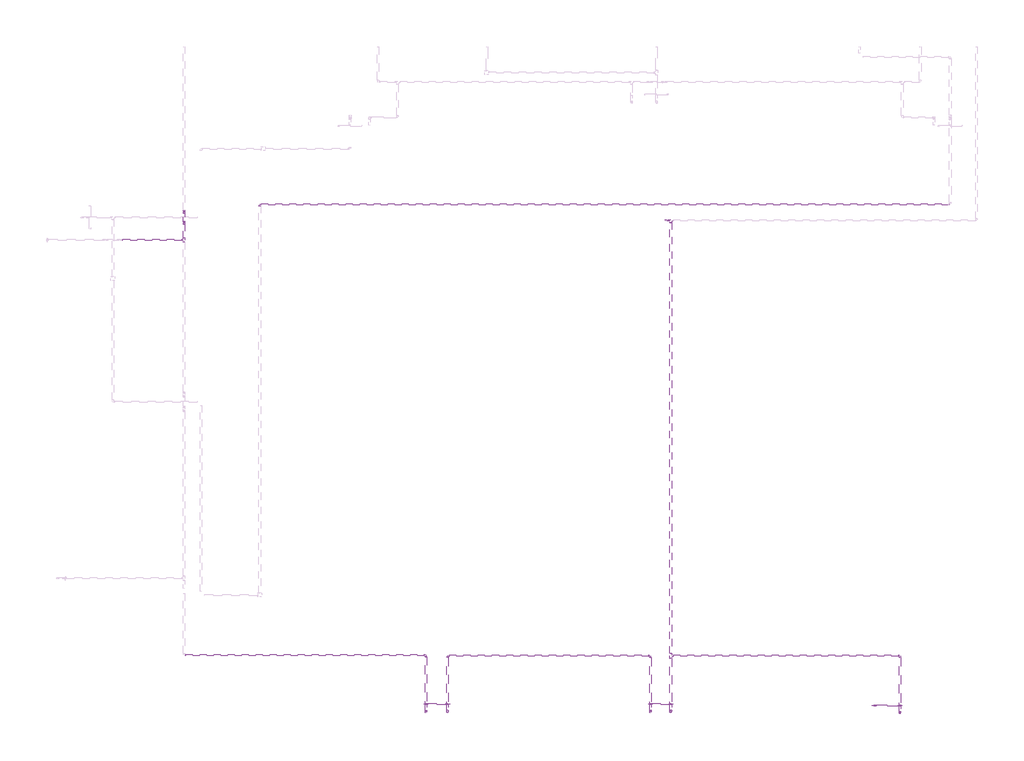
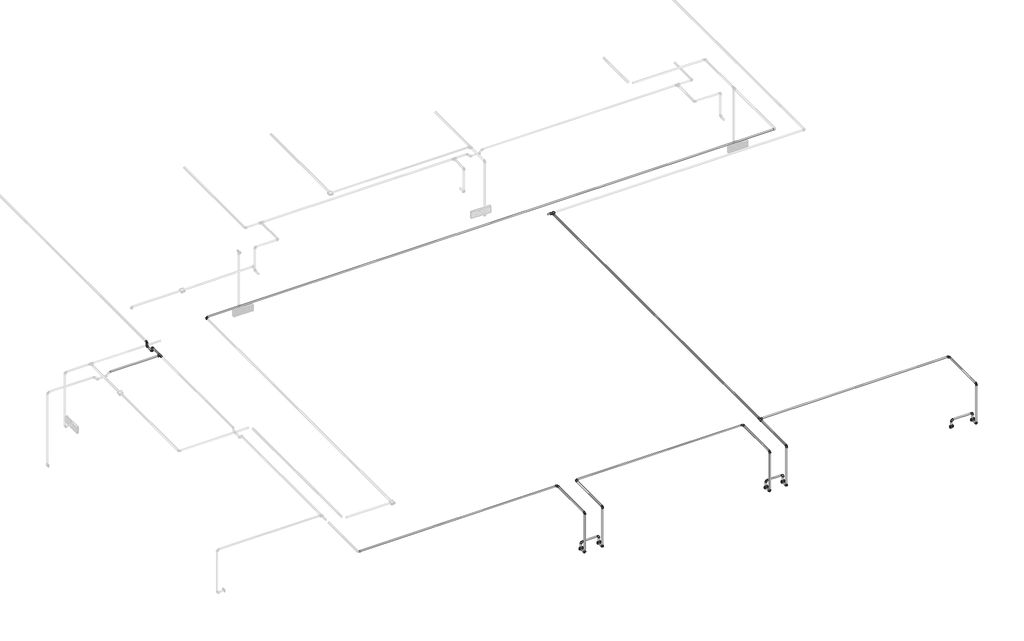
# One storey, part 9 of 40: 35 cable carrier segments, 28 cable carrier fittings, 6 electric appliances.
"""IFC4 building model written with IfcOpenShell, lengths in millimetres."""

from ifc_helpers import new_model, si_unit, point, frame, frame_2d, origin, place, context, project, spatial, circle_curve, trimmed, segment, composite_curve, outline, extrude, transform, mapped, element, save
from components import cable_carrier_fitting_69f1a801, cable_carrier_fitting_8fd13dfc, electric_appliance_5961a143

model = new_model("IFC4")

# Units and contexts
model_context = context("Model", 3, world=origin())
ifc_project = project(units=[si_unit("LENGTHUNIT", "METRE", prefix="MILLI")], contexts=[model_context])

# Site, building, storey
site = spatial("IfcSite", under=ifc_project)
building = spatial("IfcBuilding", under=site)
storey = spatial("IfcBuildingStorey", under=building, Name="1 этаж", Elevation=0.0)

# Cable carrier fittings
placement = place(None, origin())
cable_carrier_fitting_shape = cable_carrier_fitting_69f1a801(model_context)
element("IfcCableCarrierFitting", 1, ObjectType="ADSK_Поворот_Минимальный размер : Неспецифицируемый", at=placement, inside=storey, context=model_context, shape_type="MappedRepresentation", body=[
    mapped(cable_carrier_fitting_shape, transform((7617.6759979, -8505.3629895, 3190.0), x_axis=(-1.0, 0.0, 0.0), y_axis=(0.0, -1.0, 0.0), z_axis=(0.0, 0.0, 1.0))),
])
element("IfcCableCarrierFitting", 2, ObjectType="ADSK_Поворот_Минимальный размер : Неспецифицируемый", at=placement, inside=storey, context=model_context, shape_type="MappedRepresentation", body=[
    mapped(cable_carrier_fitting_shape, transform((12587.6759979, -14869.3629895, 2650.0), x_axis=(0.0, 0.0, 1.0), y_axis=(1.0, 0.0, 0.0), z_axis=(0.0, 1.0, 0.0))),
])
element("IfcCableCarrierFitting", 3, ObjectType="ADSK_Поворот_Минимальный размер : Неспецифицируемый", at=placement, inside=storey, context=model_context, shape_type="MappedRepresentation", body=[
    mapped(cable_carrier_fitting_shape, transform((12847.6759979, -14869.3629895, 2650.0), x_axis=(0.0, 0.0, 1.0), y_axis=(-1.0, 0.0, 0.0), z_axis=(0.0, -1.0, 0.0))),
])
element("IfcCableCarrierFitting", 4, ObjectType="ADSK_Поворот_Минимальный размер : Неспецифицируемый", at=placement, inside=storey, context=model_context, shape_type="MappedRepresentation", body=[
    mapped(cable_carrier_fitting_shape, transform((9731.6759979, -14869.3629895, 2650.0), x_axis=(0.0, 0.0, 1.0), y_axis=(1.0, 0.0, 0.0), z_axis=(0.0, 1.0, 0.0))),
])
element("IfcCableCarrierFitting", 5, ObjectType="ADSK_Поворот_Минимальный размер : Неспецифицируемый", at=placement, inside=storey, context=model_context, shape_type="MappedRepresentation", body=[
    mapped(cable_carrier_fitting_shape, transform((10007.6759979, -14869.3629895, 2650.0), x_axis=(0.0, 0.0, 1.0), y_axis=(-1.0, 0.0, 0.0), z_axis=(0.0, -1.0, 0.0))),
])
element("IfcCableCarrierFitting", 6, ObjectType="ADSK_Поворот_Минимальный размер : Неспецифицируемый", at=placement, inside=storey, context=model_context, shape_type="MappedRepresentation", body=[
    mapped(cable_carrier_fitting_shape, transform((12847.6759979, -14969.5627951, 2535.0911237), x_axis=(0.0, -1.0, 0.0), y_axis=(0.0, 0.0, 1.0), z_axis=(-1.0, 0.0, 0.0))),
])
element("IfcCableCarrierFitting", 7, ObjectType="ADSK_Поворот_Минимальный размер : Неспецифицируемый", at=placement, inside=storey, context=model_context, shape_type="MappedRepresentation", body=[
    mapped(cable_carrier_fitting_shape, transform((12587.6759979, -14969.5627951, 2535.0527319), x_axis=(0.0, -1.0, 0.0), y_axis=(0.0, 0.0, 1.0), z_axis=(-1.0, 0.0, 0.0))),
])
element("IfcCableCarrierFitting", 8, ObjectType="ADSK_Поворот_Минимальный размер : Неспецифицируемый", at=placement, inside=storey, context=model_context, shape_type="MappedRepresentation", body=[
    mapped(cable_carrier_fitting_shape, transform((12587.6759979, -14969.5627951, 3187.0), x_axis=(0.0, 0.0, 1.0), y_axis=(0.0, 1.0, 0.0), z_axis=(-1.0, 0.0, 0.0))),
])
element("IfcCableCarrierFitting", 9, ObjectType="ADSK_Поворот_Минимальный размер : Неспецифицируемый", at=placement, inside=storey, context=model_context, shape_type="MappedRepresentation", body=[
    mapped(cable_carrier_fitting_shape, transform((12587.6759979, -14252.3629895, 3187.0), x_axis=(0.0, 1.0, 0.0), y_axis=(-1.0, 0.0, 0.0), z_axis=(0.0, 0.0, 1.0))),
])
element("IfcCableCarrierFitting", 10, ObjectType="ADSK_Поворот_Минимальный размер : Неспецифицируемый", at=placement, inside=storey, context=model_context, shape_type="MappedRepresentation", body=[
    mapped(cable_carrier_fitting_shape, transform((10007.6759979, -14969.5627951, 2535.0911237), x_axis=(0.0, -1.0, 0.0), y_axis=(0.0, 0.0, 1.0), z_axis=(-1.0, 0.0, 0.0))),
])
element("IfcCableCarrierFitting", 11, ObjectType="ADSK_Поворот_Минимальный размер : Неспецифицируемый", at=placement, inside=storey, context=model_context, shape_type="MappedRepresentation", body=[
    mapped(cable_carrier_fitting_shape, transform((10007.6759979, -14969.5627951, 3187.0), x_axis=(0.0, 0.0, 1.0), y_axis=(0.0, 1.0, 0.0), z_axis=(-1.0, 0.0, 0.0))),
])
element("IfcCableCarrierFitting", 12, ObjectType="ADSK_Поворот_Минимальный размер : Неспецифицируемый", at=placement, inside=storey, context=model_context, shape_type="MappedRepresentation", body=[
    mapped(cable_carrier_fitting_shape, transform((10007.6759979, -14252.3629895, 3187.0), x_axis=(-1.0, 0.0, 0.0), y_axis=(0.0, -1.0, 0.0), z_axis=(0.0, 0.0, 1.0))),
])
element("IfcCableCarrierFitting", 13, ObjectType="ADSK_Поворот_Минимальный размер : Неспецифицируемый", at=placement, inside=storey, context=model_context, shape_type="MappedRepresentation", body=[
    mapped(cable_carrier_fitting_shape, transform((9731.6759979, -14969.5627951, 2535.0527319), x_axis=(0.0, -1.0, 0.0), y_axis=(0.0, 0.0, 1.0), z_axis=(-1.0, 0.0, 0.0))),
])
element("IfcCableCarrierFitting", 14, ObjectType="ADSK_Поворот_Минимальный размер : Неспецифицируемый", at=placement, inside=storey, context=model_context, shape_type="MappedRepresentation", body=[
    mapped(cable_carrier_fitting_shape, transform((9731.6759979, -14969.5627951, 3187.0), x_axis=(0.0, 0.0, 1.0), y_axis=(0.0, 1.0, 0.0), z_axis=(-1.0, 0.0, 0.0))),
])
element("IfcCableCarrierFitting", 15, ObjectType="ADSK_Поворот_Минимальный размер : Неспецифицируемый", at=placement, inside=storey, context=model_context, shape_type="MappedRepresentation", body=[
    mapped(cable_carrier_fitting_shape, transform((9731.6759979, -14242.3629895, 3187.0), x_axis=(0.0, 1.0, 0.0), y_axis=(-1.0, 0.0, 0.0), z_axis=(0.0, 0.0, 1.0))),
])
element("IfcCableCarrierFitting", 16, ObjectType="ADSK_Поворот_Минимальный размер : Неспецифицируемый", at=placement, inside=storey, context=model_context, shape_type="MappedRepresentation", body=[
    mapped(cable_carrier_fitting_shape, transform((6652.6759979, -8738.1129893, 3120.0), x_axis=(0.0, 0.0, -1.0), y_axis=(0.0, 1.0, 0.0), z_axis=(1.0, 0.0, 0.0))),
])
element("IfcCableCarrierFitting", 17, ObjectType="ADSK_Поворот_Минимальный размер : Неспецифицируемый", at=placement, inside=storey, context=model_context, shape_type="MappedRepresentation", body=[
    mapped(cable_carrier_fitting_shape, transform((6652.6759979, -8598.1129893, 3120.0), x_axis=(0.0, 1.0, 0.0), y_axis=(0.0, 0.0, 1.0), z_axis=(1.0, 0.0, 0.0))),
])
element("IfcCableCarrierFitting", 18, ObjectType="ADSK_Поворот_Минимальный размер : Неспецифицируемый", at=placement, inside=storey, context=model_context, shape_type="MappedRepresentation", body=[
    mapped(cable_carrier_fitting_shape, transform((6652.6759979, -8598.1129893, 3187.0), x_axis=(0.0, 0.0, 1.0), y_axis=(0.0, 1.0, 0.0), z_axis=(-1.0, 0.0, 0.0))),
])
element("IfcCableCarrierFitting", 19, ObjectType="ADSK_Поворот_Минимальный размер : Неспецифицируемый", at=placement, inside=storey, context=model_context, shape_type="MappedRepresentation", body=[
    mapped(cable_carrier_fitting_shape, transform((6652.6759979, -8738.1129893, 3187.0), x_axis=(0.0, 0.0, 1.0), y_axis=(0.0, -1.0, 0.0), z_axis=(1.0, 0.0, 0.0))),
])
element("IfcCableCarrierFitting", 20, ObjectType="ADSK_Поворот_Минимальный размер : Неспецифицируемый", at=placement, inside=storey, context=model_context, shape_type="MappedRepresentation", body=[
    mapped(cable_carrier_fitting_shape, transform((15766.911395, -14984.5627951, 2535.0911237), x_axis=(0.0, -1.0, 0.0), y_axis=(0.0, 0.0, 1.0), z_axis=(-1.0, 0.0, 0.0))),
])
element("IfcCableCarrierFitting", 21, ObjectType="ADSK_Поворот_Минимальный размер : Неспецифицируемый", at=placement, inside=storey, context=model_context, shape_type="MappedRepresentation", body=[
    mapped(cable_carrier_fitting_shape, transform((15766.911395, -14984.5627951, 3187.0), x_axis=(0.0, 0.0, 1.0), y_axis=(0.0, 1.0, 0.0), z_axis=(-1.0, 0.0, 0.0))),
])
element("IfcCableCarrierFitting", 22, ObjectType="ADSK_Поворот_Минимальный размер : Неспецифицируемый", at=placement, inside=storey, context=model_context, shape_type="MappedRepresentation", body=[
    mapped(cable_carrier_fitting_shape, transform((12847.6759979, -14969.5627951, 3187.0), x_axis=(0.0, 0.0, 1.0), y_axis=(0.0, 1.0, 0.0), z_axis=(-1.0, 0.0, 0.0))),
])
element("IfcCableCarrierFitting", 23, ObjectType="ADSK_Поворот_Минимальный размер : Неспецифицируемый", at=placement, inside=storey, context=model_context, shape_type="MappedRepresentation", body=[
    mapped(cable_carrier_fitting_shape, transform((15766.911395, -14252.3629895, 3187.0), x_axis=(0.0, 1.0, 0.0), y_axis=(-1.0, 0.0, 0.0), z_axis=(0.0, 0.0, 1.0))),
])
element("IfcCableCarrierFitting", 24, ObjectType="ADSK_Поворот_Минимальный размер : Неспецифицируемый", at=placement, inside=storey, context=model_context, shape_type="MappedRepresentation", body=[
    mapped(cable_carrier_fitting_shape, transform((15438.7228499, -14884.3629895, 2650.0), x_axis=(0.0, 0.0, 1.0), y_axis=(1.0, 0.0, 0.0), z_axis=(0.0, 1.0, 0.0))),
])
element("IfcCableCarrierFitting", 25, ObjectType="ADSK_Поворот_Минимальный размер : Неспецифицируемый", at=placement, inside=storey, context=model_context, shape_type="MappedRepresentation", body=[
    mapped(cable_carrier_fitting_shape, transform((15766.8950762, -14884.3629895, 2650.0), x_axis=(0.0, 0.0, 1.0), y_axis=(-1.0, 0.0, 0.0), z_axis=(0.0, -1.0, 0.0))),
])
cable_carrier_fitting_2_shape = cable_carrier_fitting_8fd13dfc(model_context)
element("IfcCableCarrierFitting", 26, ObjectType="ADSK_Тройник : ПВХ", at=placement, inside=storey, context=model_context, shape_type="MappedRepresentation", body=[
    mapped(cable_carrier_fitting_2_shape, transform((12847.6759979, -8707.8629895, 3187.0), x_axis=(1.0, 0.0, 0.0), y_axis=(0.0, 1.0, 0.0), z_axis=(0.0, 0.0, 1.0))),
])
element("IfcCableCarrierFitting", 27, ObjectType="ADSK_Тройник : ПВХ", at=placement, inside=storey, context=model_context, shape_type="MappedRepresentation", body=[
    mapped(cable_carrier_fitting_2_shape, transform((6652.6759979, -8957.6730001, 3187.0), x_axis=(0.0, -1.0, 0.0), y_axis=(1.0, 0.0, 0.0), z_axis=(0.0, 0.0, 1.0))),
])
element("IfcCableCarrierFitting", 28, ObjectType="ADSK_Тройник : ПВХ", at=placement, inside=storey, context=model_context, shape_type="MappedRepresentation", body=[
    mapped(cable_carrier_fitting_2_shape, transform((12847.6759979, -14252.3629895, 3187.0), x_axis=(0.0, 1.0, 0.0), y_axis=(-1.0, 0.0, 0.0), z_axis=(0.0, 0.0, 1.0))),
])

# Cable carrier segments
element("IfcCableCarrierSegment", 29, ObjectType="Гофрированная труба", at=placement, inside=storey, context=model_context, shape_type="SweptSolid", body=[
    extrude(outline(composite_curve([segment(trimmed(circle_curve(frame_2d((-8505.3629895, 3190.0)), 10.0), [point((-8515.3629895, 3190.0))], [point((-8505.3629895, 3200.0))], False, "CARTESIAN"), True, "CONTINUOUS"), segment(trimmed(circle_curve(frame_2d((-8505.3629895, 3190.0)), 10.0), [point((-8505.3629895, 3200.0))], [point((-8495.3629895, 3190.0))], False, "CARTESIAN"), True, "CONTINUOUS"), segment(trimmed(circle_curve(frame_2d((-8505.3629895, 3190.0)), 10.0), [point((-8495.3629895, 3190.0))], [point((-8505.3629895, 3180.0))], False, "CARTESIAN"), True, "CONTINUOUS"), segment(trimmed(circle_curve(frame_2d((-8505.3629895, 3190.0)), 10.0), [point((-8505.3629895, 3180.0))], [point((-8515.3629895, 3190.0))], False, "CARTESIAN"), True, "CONTINUOUS")], self_intersect=False)), frame((7638.6759979, 0.0, 0.0), z_axis=(1.0, 0.0, 0.0), x_axis=(0.0, 1.0, 0.0)), (0.0, 0.0, 1.0), 8744.25),
])
element("IfcCableCarrierSegment", 30, ObjectType="Гофрированная труба", at=placement, inside=storey, context=model_context, shape_type="SweptSolid", body=[
    extrude(outline(composite_curve([segment(trimmed(circle_curve(frame_2d((-8707.8629895, 3187.0)), 10.0), [point((-8697.8629895, 3187.0))], [point((-8707.8629895, 3177.0))], False, "CARTESIAN"), True, "CONTINUOUS"), segment(trimmed(circle_curve(frame_2d((-8707.8629895, 3187.0)), 10.0), [point((-8707.8629895, 3177.0))], [point((-8717.8629895, 3187.0))], False, "CARTESIAN"), True, "CONTINUOUS"), segment(trimmed(circle_curve(frame_2d((-8707.8629895, 3187.0)), 10.0), [point((-8717.8629895, 3187.0))], [point((-8707.8629895, 3197.0))], False, "CARTESIAN"), True, "CONTINUOUS"), segment(trimmed(circle_curve(frame_2d((-8707.8629895, 3187.0)), 10.0), [point((-8707.8629895, 3197.0))], [point((-8697.8629895, 3187.0))], False, "CARTESIAN"), True, "CONTINUOUS")], self_intersect=False)), frame((12780.1759979, 0.0, 0.0), z_axis=(1.0, 0.0, 0.0), x_axis=(0.0, 1.0, 0.0)), (0.0, 0.0, 1.0), 37.5),
])
element("IfcCableCarrierSegment", 31, ObjectType="Гофрированная труба", at=placement, inside=storey, context=model_context, shape_type="SweptSolid", body=[
    extrude(outline(composite_curve([segment(trimmed(circle_curve(frame_2d((-14869.3629895, 2650.0)), 10.0), [point((-14879.3629895, 2650.0))], [point((-14869.3629895, 2660.0))], False, "CARTESIAN"), True, "CONTINUOUS"), segment(trimmed(circle_curve(frame_2d((-14869.3629895, 2650.0)), 10.0), [point((-14869.3629895, 2660.0))], [point((-14859.3629895, 2650.0))], False, "CARTESIAN"), True, "CONTINUOUS"), segment(trimmed(circle_curve(frame_2d((-14869.3629895, 2650.0)), 10.0), [point((-14859.3629895, 2650.0))], [point((-14869.3629895, 2640.0))], False, "CARTESIAN"), True, "CONTINUOUS"), segment(trimmed(circle_curve(frame_2d((-14869.3629895, 2650.0)), 10.0), [point((-14869.3629895, 2640.0))], [point((-14879.3629895, 2650.0))], False, "CARTESIAN"), True, "CONTINUOUS")], self_intersect=False)), frame((12608.6759979, 0.0, 0.0), z_axis=(1.0, 0.0, 0.0), x_axis=(0.0, 1.0, 0.0)), (0.0, 0.0, 1.0), 218.0),
])
element("IfcCableCarrierSegment", 32, ObjectType="Гофрированная труба", at=placement, inside=storey, context=model_context, shape_type="SweptSolid", body=[
    extrude(outline(composite_curve([segment(trimmed(circle_curve(frame_2d((12847.6759979, -14869.3629895)), 10.0), [point((12837.6759979, -14869.3629895))], [point((12847.6759979, -14859.3629895))], False, "CARTESIAN"), True, "CONTINUOUS"), segment(trimmed(circle_curve(frame_2d((12847.6759979, -14869.3629895)), 10.0), [point((12847.6759979, -14859.3629895))], [point((12857.6759979, -14869.3629895))], False, "CARTESIAN"), True, "CONTINUOUS"), segment(trimmed(circle_curve(frame_2d((12847.6759979, -14869.3629895)), 10.0), [point((12857.6759979, -14869.3629895))], [point((12847.6759979, -14879.3629895))], False, "CARTESIAN"), True, "CONTINUOUS"), segment(trimmed(circle_curve(frame_2d((12847.6759979, -14869.3629895)), 10.0), [point((12847.6759979, -14879.3629895))], [point((12837.6759979, -14869.3629895))], False, "CARTESIAN"), True, "CONTINUOUS")], self_intersect=False)), frame((0.0, 0.0, 2564.1207114), z_axis=(0.0, 0.0, 1.0), x_axis=(1.0, 0.0, 0.0)), (0.0, 0.0, 1.0), 64.8792886),
])
element("IfcCableCarrierSegment", 33, ObjectType="Гофрированная труба", at=placement, inside=storey, context=model_context, shape_type="SweptSolid", body=[
    extrude(outline(composite_curve([segment(trimmed(circle_curve(frame_2d((12587.6759979, -14869.3629895)), 10.0), [point((12577.6759979, -14869.3629895))], [point((12587.6759979, -14859.3629895))], False, "CARTESIAN"), True, "CONTINUOUS"), segment(trimmed(circle_curve(frame_2d((12587.6759979, -14869.3629895)), 10.0), [point((12587.6759979, -14859.3629895))], [point((12597.6759979, -14869.3629895))], False, "CARTESIAN"), True, "CONTINUOUS"), segment(trimmed(circle_curve(frame_2d((12587.6759979, -14869.3629895)), 10.0), [point((12597.6759979, -14869.3629895))], [point((12587.6759979, -14879.3629895))], False, "CARTESIAN"), True, "CONTINUOUS"), segment(trimmed(circle_curve(frame_2d((12587.6759979, -14869.3629895)), 10.0), [point((12587.6759979, -14879.3629895))], [point((12577.6759979, -14869.3629895))], False, "CARTESIAN"), True, "CONTINUOUS")], self_intersect=False)), frame((0.0, 0.0, 2564.0823197), z_axis=(0.0, 0.0, 1.0), x_axis=(1.0, 0.0, 0.0)), (0.0, 0.0, 1.0), 64.9176803),
])
element("IfcCableCarrierSegment", 34, ObjectType="Гофрированная труба", at=placement, inside=storey, context=model_context, shape_type="SweptSolid", body=[
    extrude(outline(composite_curve([segment(trimmed(circle_curve(frame_2d((-14869.3629895, 2650.0)), 10.0), [point((-14879.3629895, 2650.0))], [point((-14869.3629895, 2660.0))], False, "CARTESIAN"), True, "CONTINUOUS"), segment(trimmed(circle_curve(frame_2d((-14869.3629895, 2650.0)), 10.0), [point((-14869.3629895, 2660.0))], [point((-14859.3629895, 2650.0))], False, "CARTESIAN"), True, "CONTINUOUS"), segment(trimmed(circle_curve(frame_2d((-14869.3629895, 2650.0)), 10.0), [point((-14859.3629895, 2650.0))], [point((-14869.3629895, 2640.0))], False, "CARTESIAN"), True, "CONTINUOUS"), segment(trimmed(circle_curve(frame_2d((-14869.3629895, 2650.0)), 10.0), [point((-14869.3629895, 2640.0))], [point((-14879.3629895, 2650.0))], False, "CARTESIAN"), True, "CONTINUOUS")], self_intersect=False)), frame((9752.6759979, 0.0, 0.0), z_axis=(1.0, 0.0, 0.0), x_axis=(0.0, 1.0, 0.0)), (0.0, 0.0, 1.0), 234.0),
])
element("IfcCableCarrierSegment", 35, ObjectType="Гофрированная труба", at=placement, inside=storey, context=model_context, shape_type="SweptSolid", body=[
    extrude(outline(composite_curve([segment(trimmed(circle_curve(frame_2d((10007.6759979, -14869.3629895)), 10.0), [point((9997.6759979, -14869.3629895))], [point((10007.6759979, -14859.3629895))], False, "CARTESIAN"), True, "CONTINUOUS"), segment(trimmed(circle_curve(frame_2d((10007.6759979, -14869.3629895)), 10.0), [point((10007.6759979, -14859.3629895))], [point((10017.6759979, -14869.3629895))], False, "CARTESIAN"), True, "CONTINUOUS"), segment(trimmed(circle_curve(frame_2d((10007.6759979, -14869.3629895)), 10.0), [point((10017.6759979, -14869.3629895))], [point((10007.6759979, -14879.3629895))], False, "CARTESIAN"), True, "CONTINUOUS"), segment(trimmed(circle_curve(frame_2d((10007.6759979, -14869.3629895)), 10.0), [point((10007.6759979, -14879.3629895))], [point((9997.6759979, -14869.3629895))], False, "CARTESIAN"), True, "CONTINUOUS")], self_intersect=False)), frame((0.0, 0.0, 2564.1207114), z_axis=(0.0, 0.0, 1.0), x_axis=(1.0, 0.0, 0.0)), (0.0, 0.0, 1.0), 64.8792886),
])
element("IfcCableCarrierSegment", 36, ObjectType="Гофрированная труба", at=placement, inside=storey, context=model_context, shape_type="SweptSolid", body=[
    extrude(outline(composite_curve([segment(trimmed(circle_curve(frame_2d((9731.6759979, -14869.3629895)), 10.0), [point((9721.6759979, -14869.3629895))], [point((9731.6759979, -14859.3629895))], False, "CARTESIAN"), True, "CONTINUOUS"), segment(trimmed(circle_curve(frame_2d((9731.6759979, -14869.3629895)), 10.0), [point((9731.6759979, -14859.3629895))], [point((9741.6759979, -14869.3629895))], False, "CARTESIAN"), True, "CONTINUOUS"), segment(trimmed(circle_curve(frame_2d((9731.6759979, -14869.3629895)), 10.0), [point((9741.6759979, -14869.3629895))], [point((9731.6759979, -14879.3629895))], False, "CARTESIAN"), True, "CONTINUOUS"), segment(trimmed(circle_curve(frame_2d((9731.6759979, -14869.3629895)), 10.0), [point((9731.6759979, -14879.3629895))], [point((9721.6759979, -14869.3629895))], False, "CARTESIAN"), True, "CONTINUOUS")], self_intersect=False)), frame((0.0, 0.0, 2564.0823197), z_axis=(0.0, 0.0, 1.0), x_axis=(1.0, 0.0, 0.0)), (0.0, 0.0, 1.0), 64.9176803),
])
element("IfcCableCarrierSegment", 37, ObjectType="Гофрированная труба", at=placement, inside=storey, context=model_context, shape_type="SweptSolid", body=[
    extrude(outline(composite_curve([segment(trimmed(circle_curve(frame_2d((3187.0, 12847.6759979)), 10.0), [point((3187.0, 12837.6759979))], [point((3177.0, 12847.6759979))], False, "CARTESIAN"), True, "CONTINUOUS"), segment(trimmed(circle_curve(frame_2d((3187.0, 12847.6759979)), 10.0), [point((3177.0, 12847.6759979))], [point((3187.0, 12857.6759979))], False, "CARTESIAN"), True, "CONTINUOUS"), segment(trimmed(circle_curve(frame_2d((3187.0, 12847.6759979)), 10.0), [point((3187.0, 12857.6759979))], [point((3197.0, 12847.6759979))], False, "CARTESIAN"), True, "CONTINUOUS"), segment(trimmed(circle_curve(frame_2d((3187.0, 12847.6759979)), 10.0), [point((3197.0, 12847.6759979))], [point((3187.0, 12837.6759979))], False, "CARTESIAN"), True, "CONTINUOUS")], self_intersect=False)), frame((0.0, -14948.5627951, 0.0), z_axis=(0.0, 1.0, 0.0), x_axis=(0.0, 0.0, 1.0)), (0.0, 0.0, 1.0), 666.1998056),
])
element("IfcCableCarrierSegment", 38, ObjectType="Гофрированная труба", at=placement, inside=storey, context=model_context, shape_type="SweptSolid", body=[
    extrude(outline(composite_curve([segment(trimmed(circle_curve(frame_2d((2535.0911237, 12847.6759979)), 10.0), [point((2535.0911237, 12837.6759979))], [point((2525.0911237, 12847.6759979))], False, "CARTESIAN"), True, "CONTINUOUS"), segment(trimmed(circle_curve(frame_2d((2535.0911237, 12847.6759979)), 10.0), [point((2525.0911237, 12847.6759979))], [point((2535.0911237, 12857.6759979))], False, "CARTESIAN"), True, "CONTINUOUS"), segment(trimmed(circle_curve(frame_2d((2535.0911237, 12847.6759979)), 10.0), [point((2535.0911237, 12857.6759979))], [point((2545.0911237, 12847.6759979))], False, "CARTESIAN"), True, "CONTINUOUS"), segment(trimmed(circle_curve(frame_2d((2535.0911237, 12847.6759979)), 10.0), [point((2545.0911237, 12847.6759979))], [point((2535.0911237, 12837.6759979))], False, "CARTESIAN"), True, "CONTINUOUS")], self_intersect=False)), frame((0.0, -14948.5627951, 0.0), z_axis=(0.0, 1.0, 0.0), x_axis=(0.0, 0.0, 1.0)), (0.0, 0.0, 1.0), 76.1998056),
])
element("IfcCableCarrierSegment", 39, ObjectType="Гофрированная труба", at=placement, inside=storey, context=model_context, shape_type="SweptSolid", body=[
    extrude(outline(composite_curve([segment(trimmed(circle_curve(frame_2d((12847.6759979, -14969.5627951)), 10.0), [point((12837.6759979, -14969.5627951))], [point((12847.6759979, -14959.5627951))], False, "CARTESIAN"), True, "CONTINUOUS"), segment(trimmed(circle_curve(frame_2d((12847.6759979, -14969.5627951)), 10.0), [point((12847.6759979, -14959.5627951))], [point((12857.6759979, -14969.5627951))], False, "CARTESIAN"), True, "CONTINUOUS"), segment(trimmed(circle_curve(frame_2d((12847.6759979, -14969.5627951)), 10.0), [point((12857.6759979, -14969.5627951))], [point((12847.6759979, -14979.5627951))], False, "CARTESIAN"), True, "CONTINUOUS"), segment(trimmed(circle_curve(frame_2d((12847.6759979, -14969.5627951)), 10.0), [point((12847.6759979, -14979.5627951))], [point((12837.6759979, -14969.5627951))], False, "CARTESIAN"), True, "CONTINUOUS")], self_intersect=False)), frame((0.0, 0.0, 2556.0911237), z_axis=(0.0, 0.0, 1.0), x_axis=(1.0, 0.0, 0.0)), (0.0, 0.0, 1.0), 609.9088763),
])
element("IfcCableCarrierSegment", 40, ObjectType="Гофрированная труба", at=placement, inside=storey, context=model_context, shape_type="SweptSolid", body=[
    extrude(outline(composite_curve([segment(trimmed(circle_curve(frame_2d((3187.0, 12587.6759979)), 10.0), [point((3187.0, 12597.6759979))], [point((3197.0, 12587.6759979))], False, "CARTESIAN"), True, "CONTINUOUS"), segment(trimmed(circle_curve(frame_2d((3187.0, 12587.6759979)), 10.0), [point((3197.0, 12587.6759979))], [point((3187.0, 12577.6759979))], False, "CARTESIAN"), True, "CONTINUOUS"), segment(trimmed(circle_curve(frame_2d((3187.0, 12587.6759979)), 10.0), [point((3187.0, 12577.6759979))], [point((3177.0, 12587.6759979))], False, "CARTESIAN"), True, "CONTINUOUS"), segment(trimmed(circle_curve(frame_2d((3187.0, 12587.6759979)), 10.0), [point((3177.0, 12587.6759979))], [point((3187.0, 12597.6759979))], False, "CARTESIAN"), True, "CONTINUOUS")], self_intersect=False)), frame((0.0, -14948.5627951, 0.0), z_axis=(0.0, 1.0, 0.0), x_axis=(0.0, 0.0, 1.0)), (0.0, 0.0, 1.0), 675.1998056),
])
element("IfcCableCarrierSegment", 41, ObjectType="Гофрированная труба", at=placement, inside=storey, context=model_context, shape_type="SweptSolid", body=[
    extrude(outline(composite_curve([segment(trimmed(circle_curve(frame_2d((2535.0527319, 12587.6759979)), 10.0), [point((2535.0527319, 12577.6759979))], [point((2525.0527319, 12587.6759979))], False, "CARTESIAN"), True, "CONTINUOUS"), segment(trimmed(circle_curve(frame_2d((2535.0527319, 12587.6759979)), 10.0), [point((2525.0527319, 12587.6759979))], [point((2535.0527319, 12597.6759979))], False, "CARTESIAN"), True, "CONTINUOUS"), segment(trimmed(circle_curve(frame_2d((2535.0527319, 12587.6759979)), 10.0), [point((2535.0527319, 12597.6759979))], [point((2545.0527319, 12587.6759979))], False, "CARTESIAN"), True, "CONTINUOUS"), segment(trimmed(circle_curve(frame_2d((2535.0527319, 12587.6759979)), 10.0), [point((2545.0527319, 12587.6759979))], [point((2535.0527319, 12577.6759979))], False, "CARTESIAN"), True, "CONTINUOUS")], self_intersect=False)), frame((0.0, -14948.5627951, 0.0), z_axis=(0.0, 1.0, 0.0), x_axis=(0.0, 0.0, 1.0)), (0.0, 0.0, 1.0), 76.1998056),
])
element("IfcCableCarrierSegment", 42, ObjectType="Гофрированная труба", at=placement, inside=storey, context=model_context, shape_type="SweptSolid", body=[
    extrude(outline(composite_curve([segment(trimmed(circle_curve(frame_2d((12587.6759979, -14969.5627951)), 10.0), [point((12577.6759979, -14969.5627951))], [point((12587.6759979, -14959.5627951))], False, "CARTESIAN"), True, "CONTINUOUS"), segment(trimmed(circle_curve(frame_2d((12587.6759979, -14969.5627951)), 10.0), [point((12587.6759979, -14959.5627951))], [point((12597.6759979, -14969.5627951))], False, "CARTESIAN"), True, "CONTINUOUS"), segment(trimmed(circle_curve(frame_2d((12587.6759979, -14969.5627951)), 10.0), [point((12597.6759979, -14969.5627951))], [point((12587.6759979, -14979.5627951))], False, "CARTESIAN"), True, "CONTINUOUS"), segment(trimmed(circle_curve(frame_2d((12587.6759979, -14969.5627951)), 10.0), [point((12587.6759979, -14979.5627951))], [point((12577.6759979, -14969.5627951))], False, "CARTESIAN"), True, "CONTINUOUS")], self_intersect=False)), frame((0.0, 0.0, 2556.0527319), z_axis=(0.0, 0.0, 1.0), x_axis=(1.0, 0.0, 0.0)), (0.0, 0.0, 1.0), 609.9472681),
])
element("IfcCableCarrierSegment", 43, ObjectType="Гофрированная труба", at=placement, inside=storey, context=model_context, shape_type="SweptSolid", body=[
    extrude(outline(composite_curve([segment(trimmed(circle_curve(frame_2d((3187.0, 10007.6759979)), 10.0), [point((3187.0, 10017.6759979))], [point((3197.0, 10007.6759979))], False, "CARTESIAN"), True, "CONTINUOUS"), segment(trimmed(circle_curve(frame_2d((3187.0, 10007.6759979)), 10.0), [point((3197.0, 10007.6759979))], [point((3187.0, 9997.6759979))], False, "CARTESIAN"), True, "CONTINUOUS"), segment(trimmed(circle_curve(frame_2d((3187.0, 10007.6759979)), 10.0), [point((3187.0, 9997.6759979))], [point((3177.0, 10007.6759979))], False, "CARTESIAN"), True, "CONTINUOUS"), segment(trimmed(circle_curve(frame_2d((3187.0, 10007.6759979)), 10.0), [point((3177.0, 10007.6759979))], [point((3187.0, 10017.6759979))], False, "CARTESIAN"), True, "CONTINUOUS")], self_intersect=False)), frame((0.0, -14948.5627951, 0.0), z_axis=(0.0, 1.0, 0.0), x_axis=(0.0, 0.0, 1.0)), (0.0, 0.0, 1.0), 675.1998056),
])
element("IfcCableCarrierSegment", 44, ObjectType="Гофрированная труба", at=placement, inside=storey, context=model_context, shape_type="SweptSolid", body=[
    extrude(outline(composite_curve([segment(trimmed(circle_curve(frame_2d((2535.0911237, 10007.6759979)), 10.0), [point((2535.0911237, 9997.6759979))], [point((2525.0911237, 10007.6759979))], False, "CARTESIAN"), True, "CONTINUOUS"), segment(trimmed(circle_curve(frame_2d((2535.0911237, 10007.6759979)), 10.0), [point((2525.0911237, 10007.6759979))], [point((2535.0911237, 10017.6759979))], False, "CARTESIAN"), True, "CONTINUOUS"), segment(trimmed(circle_curve(frame_2d((2535.0911237, 10007.6759979)), 10.0), [point((2535.0911237, 10017.6759979))], [point((2545.0911237, 10007.6759979))], False, "CARTESIAN"), True, "CONTINUOUS"), segment(trimmed(circle_curve(frame_2d((2535.0911237, 10007.6759979)), 10.0), [point((2545.0911237, 10007.6759979))], [point((2535.0911237, 9997.6759979))], False, "CARTESIAN"), True, "CONTINUOUS")], self_intersect=False)), frame((0.0, -14948.5627951, 0.0), z_axis=(0.0, 1.0, 0.0), x_axis=(0.0, 0.0, 1.0)), (0.0, 0.0, 1.0), 76.1998056),
])
element("IfcCableCarrierSegment", 45, ObjectType="Гофрированная труба", at=placement, inside=storey, context=model_context, shape_type="SweptSolid", body=[
    extrude(outline(composite_curve([segment(trimmed(circle_curve(frame_2d((10007.6759979, -14969.5627951)), 10.0), [point((9997.6759979, -14969.5627951))], [point((10007.6759979, -14959.5627951))], False, "CARTESIAN"), True, "CONTINUOUS"), segment(trimmed(circle_curve(frame_2d((10007.6759979, -14969.5627951)), 10.0), [point((10007.6759979, -14959.5627951))], [point((10017.6759979, -14969.5627951))], False, "CARTESIAN"), True, "CONTINUOUS"), segment(trimmed(circle_curve(frame_2d((10007.6759979, -14969.5627951)), 10.0), [point((10017.6759979, -14969.5627951))], [point((10007.6759979, -14979.5627951))], False, "CARTESIAN"), True, "CONTINUOUS"), segment(trimmed(circle_curve(frame_2d((10007.6759979, -14969.5627951)), 10.0), [point((10007.6759979, -14979.5627951))], [point((9997.6759979, -14969.5627951))], False, "CARTESIAN"), True, "CONTINUOUS")], self_intersect=False)), frame((0.0, 0.0, 2556.0911237), z_axis=(0.0, 0.0, 1.0), x_axis=(1.0, 0.0, 0.0)), (0.0, 0.0, 1.0), 609.9088763),
])
element("IfcCableCarrierSegment", 46, ObjectType="Гофрированная труба", at=placement, inside=storey, context=model_context, shape_type="SweptSolid", body=[
    extrude(outline(composite_curve([segment(trimmed(circle_curve(frame_2d((-14252.3629895, 3187.0)), 10.0), [point((-14242.3629895, 3187.0))], [point((-14252.3629895, 3177.0))], False, "CARTESIAN"), True, "CONTINUOUS"), segment(trimmed(circle_curve(frame_2d((-14252.3629895, 3187.0)), 10.0), [point((-14252.3629895, 3177.0))], [point((-14262.3629895, 3187.0))], False, "CARTESIAN"), True, "CONTINUOUS"), segment(trimmed(circle_curve(frame_2d((-14252.3629895, 3187.0)), 10.0), [point((-14262.3629895, 3187.0))], [point((-14252.3629895, 3197.0))], False, "CARTESIAN"), True, "CONTINUOUS"), segment(trimmed(circle_curve(frame_2d((-14252.3629895, 3187.0)), 10.0), [point((-14252.3629895, 3197.0))], [point((-14242.3629895, 3187.0))], False, "CARTESIAN"), True, "CONTINUOUS")], self_intersect=False)), frame((10028.6759979, 0.0, 0.0), z_axis=(1.0, 0.0, 0.0), x_axis=(0.0, 1.0, 0.0)), (0.0, 0.0, 1.0), 2538.0),
])
element("IfcCableCarrierSegment", 47, ObjectType="Гофрированная труба", at=placement, inside=storey, context=model_context, shape_type="SweptSolid", body=[
    extrude(outline(composite_curve([segment(trimmed(circle_curve(frame_2d((3187.0, 9731.6759979)), 10.0), [point((3187.0, 9741.6759979))], [point((3197.0, 9731.6759979))], False, "CARTESIAN"), True, "CONTINUOUS"), segment(trimmed(circle_curve(frame_2d((3187.0, 9731.6759979)), 10.0), [point((3197.0, 9731.6759979))], [point((3187.0, 9721.6759979))], False, "CARTESIAN"), True, "CONTINUOUS"), segment(trimmed(circle_curve(frame_2d((3187.0, 9731.6759979)), 10.0), [point((3187.0, 9721.6759979))], [point((3177.0, 9731.6759979))], False, "CARTESIAN"), True, "CONTINUOUS"), segment(trimmed(circle_curve(frame_2d((3187.0, 9731.6759979)), 10.0), [point((3177.0, 9731.6759979))], [point((3187.0, 9741.6759979))], False, "CARTESIAN"), True, "CONTINUOUS")], self_intersect=False)), frame((0.0, -14948.5627951, 0.0), z_axis=(0.0, 1.0, 0.0), x_axis=(0.0, 0.0, 1.0)), (0.0, 0.0, 1.0), 685.1998056),
])
element("IfcCableCarrierSegment", 48, ObjectType="Гофрированная труба", at=placement, inside=storey, context=model_context, shape_type="SweptSolid", body=[
    extrude(outline(composite_curve([segment(trimmed(circle_curve(frame_2d((2535.0527319, 9731.6759979)), 10.0), [point((2535.0527319, 9721.6759979))], [point((2525.0527319, 9731.6759979))], False, "CARTESIAN"), True, "CONTINUOUS"), segment(trimmed(circle_curve(frame_2d((2535.0527319, 9731.6759979)), 10.0), [point((2525.0527319, 9731.6759979))], [point((2535.0527319, 9741.6759979))], False, "CARTESIAN"), True, "CONTINUOUS"), segment(trimmed(circle_curve(frame_2d((2535.0527319, 9731.6759979)), 10.0), [point((2535.0527319, 9741.6759979))], [point((2545.0527319, 9731.6759979))], False, "CARTESIAN"), True, "CONTINUOUS"), segment(trimmed(circle_curve(frame_2d((2535.0527319, 9731.6759979)), 10.0), [point((2545.0527319, 9731.6759979))], [point((2535.0527319, 9721.6759979))], False, "CARTESIAN"), True, "CONTINUOUS")], self_intersect=False)), frame((0.0, -14948.5627951, 0.0), z_axis=(0.0, 1.0, 0.0), x_axis=(0.0, 0.0, 1.0)), (0.0, 0.0, 1.0), 76.1998056),
])
element("IfcCableCarrierSegment", 49, ObjectType="Гофрированная труба", at=placement, inside=storey, context=model_context, shape_type="SweptSolid", body=[
    extrude(outline(composite_curve([segment(trimmed(circle_curve(frame_2d((9731.6759979, -14969.5627951)), 10.0), [point((9721.6759979, -14969.5627951))], [point((9731.6759979, -14959.5627951))], False, "CARTESIAN"), True, "CONTINUOUS"), segment(trimmed(circle_curve(frame_2d((9731.6759979, -14969.5627951)), 10.0), [point((9731.6759979, -14959.5627951))], [point((9741.6759979, -14969.5627951))], False, "CARTESIAN"), True, "CONTINUOUS"), segment(trimmed(circle_curve(frame_2d((9731.6759979, -14969.5627951)), 10.0), [point((9741.6759979, -14969.5627951))], [point((9731.6759979, -14979.5627951))], False, "CARTESIAN"), True, "CONTINUOUS"), segment(trimmed(circle_curve(frame_2d((9731.6759979, -14969.5627951)), 10.0), [point((9731.6759979, -14979.5627951))], [point((9721.6759979, -14969.5627951))], False, "CARTESIAN"), True, "CONTINUOUS")], self_intersect=False)), frame((0.0, 0.0, 2556.0527319), z_axis=(0.0, 0.0, 1.0), x_axis=(1.0, 0.0, 0.0)), (0.0, 0.0, 1.0), 609.9472681),
])
element("IfcCableCarrierSegment", 50, ObjectType="Гофрированная труба", at=placement, inside=storey, context=model_context, shape_type="SweptSolid", body=[
    extrude(outline(composite_curve([segment(trimmed(circle_curve(frame_2d((-14242.3629895, 3187.0)), 10.0), [point((-14252.3629895, 3187.0))], [point((-14242.3629895, 3197.0))], False, "CARTESIAN"), True, "CONTINUOUS"), segment(trimmed(circle_curve(frame_2d((-14242.3629895, 3187.0)), 10.0), [point((-14242.3629895, 3197.0))], [point((-14232.3629895, 3187.0))], False, "CARTESIAN"), True, "CONTINUOUS"), segment(trimmed(circle_curve(frame_2d((-14242.3629895, 3187.0)), 10.0), [point((-14232.3629895, 3187.0))], [point((-14242.3629895, 3177.0))], False, "CARTESIAN"), True, "CONTINUOUS"), segment(trimmed(circle_curve(frame_2d((-14242.3629895, 3187.0)), 10.0), [point((-14242.3629895, 3177.0))], [point((-14252.3629895, 3187.0))], False, "CARTESIAN"), True, "CONTINUOUS")], self_intersect=False)), frame((6673.6759979, 0.0, 0.0), z_axis=(1.0, 0.0, 0.0), x_axis=(0.0, 1.0, 0.0)), (0.0, 0.0, 1.0), 3037.0),
])
element("IfcCableCarrierSegment", 51, ObjectType="Гофрированная труба", at=placement, inside=storey, context=model_context, shape_type="SweptSolid", body=[
    extrude(outline(composite_curve([segment(trimmed(circle_curve(frame_2d((3120.0, 6652.6759979)), 10.0), [point((3120.0, 6662.6759979))], [point((3130.0, 6652.6759979))], False, "CARTESIAN"), True, "CONTINUOUS"), segment(trimmed(circle_curve(frame_2d((3120.0, 6652.6759979)), 10.0), [point((3130.0, 6652.6759979))], [point((3120.0, 6642.6759979))], False, "CARTESIAN"), True, "CONTINUOUS"), segment(trimmed(circle_curve(frame_2d((3120.0, 6652.6759979)), 10.0), [point((3120.0, 6642.6759979))], [point((3110.0, 6652.6759979))], False, "CARTESIAN"), True, "CONTINUOUS"), segment(trimmed(circle_curve(frame_2d((3120.0, 6652.6759979)), 10.0), [point((3110.0, 6652.6759979))], [point((3120.0, 6662.6759979))], False, "CARTESIAN"), True, "CONTINUOUS")], self_intersect=False)), frame((0.0, -8717.1129893, 0.0), z_axis=(0.0, 1.0, 0.0), x_axis=(0.0, 0.0, 1.0)), (0.0, 0.0, 1.0), 98.0),
])
element("IfcCableCarrierSegment", 52, ObjectType="Гофрированная труба", at=placement, inside=storey, context=model_context, shape_type="SweptSolid", body=[
    extrude(outline(composite_curve([segment(trimmed(circle_curve(frame_2d((6652.6759979, -8738.1129893)), 10.0), [point((6662.6759979, -8738.1129893))], [point((6652.6759979, -8748.1129893))], False, "CARTESIAN"), True, "CONTINUOUS"), segment(trimmed(circle_curve(frame_2d((6652.6759979, -8738.1129893)), 10.0), [point((6652.6759979, -8748.1129893))], [point((6642.6759979, -8738.1129893))], False, "CARTESIAN"), True, "CONTINUOUS"), segment(trimmed(circle_curve(frame_2d((6652.6759979, -8738.1129893)), 10.0), [point((6642.6759979, -8738.1129893))], [point((6652.6759979, -8728.1129893))], False, "CARTESIAN"), True, "CONTINUOUS"), segment(trimmed(circle_curve(frame_2d((6652.6759979, -8738.1129893)), 10.0), [point((6652.6759979, -8728.1129893))], [point((6662.6759979, -8738.1129893))], False, "CARTESIAN"), True, "CONTINUOUS")], self_intersect=False)), frame((0.0, 0.0, 3141.0), z_axis=(0.0, 0.0, 1.0), x_axis=(1.0, 0.0, 0.0)), (0.0, 0.0, 1.0), 25.0),
])
element("IfcCableCarrierSegment", 53, ObjectType="Гофрированная труба", at=placement, inside=storey, context=model_context, shape_type="SweptSolid", body=[
    extrude(outline(composite_curve([segment(trimmed(circle_curve(frame_2d((6652.6759979, -8598.1129893)), 10.0), [point((6642.6759979, -8598.1129893))], [point((6652.6759979, -8588.1129893))], False, "CARTESIAN"), True, "CONTINUOUS"), segment(trimmed(circle_curve(frame_2d((6652.6759979, -8598.1129893)), 10.0), [point((6652.6759979, -8588.1129893))], [point((6662.6759979, -8598.1129893))], False, "CARTESIAN"), True, "CONTINUOUS"), segment(trimmed(circle_curve(frame_2d((6652.6759979, -8598.1129893)), 10.0), [point((6662.6759979, -8598.1129893))], [point((6652.6759979, -8608.1129893))], False, "CARTESIAN"), True, "CONTINUOUS"), segment(trimmed(circle_curve(frame_2d((6652.6759979, -8598.1129893)), 10.0), [point((6652.6759979, -8608.1129893))], [point((6642.6759979, -8598.1129893))], False, "CARTESIAN"), True, "CONTINUOUS")], self_intersect=False)), frame((0.0, 0.0, 3141.0), z_axis=(0.0, 0.0, 1.0), x_axis=(1.0, 0.0, 0.0)), (0.0, 0.0, 1.0), 25.0),
])
element("IfcCableCarrierSegment", 54, ObjectType="Гофрированная труба", at=placement, inside=storey, context=model_context, shape_type="SweptSolid", body=[
    extrude(outline(composite_curve([segment(trimmed(circle_curve(frame_2d((-8957.6730001, 3187.0)), 10.0), [point((-8967.6730001, 3187.0))], [point((-8957.6730001, 3197.0))], False, "CARTESIAN"), True, "CONTINUOUS"), segment(trimmed(circle_curve(frame_2d((-8957.6730001, 3187.0)), 10.0), [point((-8957.6730001, 3197.0))], [point((-8947.6730001, 3187.0))], False, "CARTESIAN"), True, "CONTINUOUS"), segment(trimmed(circle_curve(frame_2d((-8957.6730001, 3187.0)), 10.0), [point((-8947.6730001, 3187.0))], [point((-8957.6730001, 3177.0))], False, "CARTESIAN"), True, "CONTINUOUS"), segment(trimmed(circle_curve(frame_2d((-8957.6730001, 3187.0)), 10.0), [point((-8957.6730001, 3177.0))], [point((-8967.6730001, 3187.0))], False, "CARTESIAN"), True, "CONTINUOUS")], self_intersect=False)), frame((5874.3166674, 0.0, 0.0), z_axis=(1.0, 0.0, 0.0), x_axis=(0.0, 1.0, 0.0)), (0.0, 0.0, 1.0), 748.3593305),
])
element("IfcCableCarrierSegment", 55, ObjectType="Гофрированная труба", at=placement, inside=storey, context=model_context, shape_type="SweptSolid", body=[
    extrude(outline(composite_curve([segment(trimmed(circle_curve(frame_2d((3187.0, 6652.6759979)), 10.0), [point((3187.0, 6642.6759979))], [point((3177.0, 6652.6759979))], False, "CARTESIAN"), True, "CONTINUOUS"), segment(trimmed(circle_curve(frame_2d((3187.0, 6652.6759979)), 10.0), [point((3177.0, 6652.6759979))], [point((3187.0, 6662.6759979))], False, "CARTESIAN"), True, "CONTINUOUS"), segment(trimmed(circle_curve(frame_2d((3187.0, 6652.6759979)), 10.0), [point((3187.0, 6662.6759979))], [point((3197.0, 6652.6759979))], False, "CARTESIAN"), True, "CONTINUOUS"), segment(trimmed(circle_curve(frame_2d((3187.0, 6652.6759979)), 10.0), [point((3197.0, 6652.6759979))], [point((3187.0, 6642.6759979))], False, "CARTESIAN"), True, "CONTINUOUS")], self_intersect=False)), frame((0.0, -8927.6730001, 0.0), z_axis=(0.0, 1.0, 0.0), x_axis=(0.0, 0.0, 1.0)), (0.0, 0.0, 1.0), 168.5600109),
])
element("IfcCableCarrierSegment", 56, ObjectType="Гофрированная труба", at=placement, inside=storey, context=model_context, shape_type="SweptSolid", body=[
    extrude(outline(composite_curve([segment(trimmed(circle_curve(frame_2d((-14252.3629895, 3187.0)), 10.0), [point((-14242.3629895, 3187.0))], [point((-14252.3629895, 3177.0))], False, "CARTESIAN"), True, "CONTINUOUS"), segment(trimmed(circle_curve(frame_2d((-14252.3629895, 3187.0)), 10.0), [point((-14252.3629895, 3177.0))], [point((-14262.3629895, 3187.0))], False, "CARTESIAN"), True, "CONTINUOUS"), segment(trimmed(circle_curve(frame_2d((-14252.3629895, 3187.0)), 10.0), [point((-14262.3629895, 3187.0))], [point((-14252.3629895, 3197.0))], False, "CARTESIAN"), True, "CONTINUOUS"), segment(trimmed(circle_curve(frame_2d((-14252.3629895, 3187.0)), 10.0), [point((-14252.3629895, 3197.0))], [point((-14242.3629895, 3187.0))], False, "CARTESIAN"), True, "CONTINUOUS")], self_intersect=False)), frame((12877.6759979, 0.0, 0.0), z_axis=(1.0, 0.0, 0.0), x_axis=(0.0, 1.0, 0.0)), (0.0, 0.0, 1.0), 2868.2353971),
])
element("IfcCableCarrierSegment", 57, ObjectType="Гофрированная труба", at=placement, inside=storey, context=model_context, shape_type="SweptSolid", body=[
    extrude(outline(composite_curve([segment(trimmed(circle_curve(frame_2d((3187.0, 15766.911395)), 10.0), [point((3187.0, 15756.911395))], [point((3177.0, 15766.911395))], False, "CARTESIAN"), True, "CONTINUOUS"), segment(trimmed(circle_curve(frame_2d((3187.0, 15766.911395)), 10.0), [point((3177.0, 15766.911395))], [point((3187.0, 15776.911395))], False, "CARTESIAN"), True, "CONTINUOUS"), segment(trimmed(circle_curve(frame_2d((3187.0, 15766.911395)), 10.0), [point((3187.0, 15776.911395))], [point((3197.0, 15766.911395))], False, "CARTESIAN"), True, "CONTINUOUS"), segment(trimmed(circle_curve(frame_2d((3187.0, 15766.911395)), 10.0), [point((3197.0, 15766.911395))], [point((3187.0, 15756.911395))], False, "CARTESIAN"), True, "CONTINUOUS")], self_intersect=False)), frame((0.0, -14963.5627951, 0.0), z_axis=(0.0, 1.0, 0.0), x_axis=(0.0, 0.0, 1.0)), (0.0, 0.0, 1.0), 690.1998056),
])
element("IfcCableCarrierSegment", 58, ObjectType="Гофрированная труба", at=placement, inside=storey, context=model_context, shape_type="SweptSolid", body=[
    extrude(outline(composite_curve([segment(trimmed(circle_curve(frame_2d((2535.0911237, 15766.911395)), 10.0), [point((2535.0911237, 15756.911395))], [point((2525.0911237, 15766.911395))], False, "CARTESIAN"), True, "CONTINUOUS"), segment(trimmed(circle_curve(frame_2d((2535.0911237, 15766.911395)), 10.0), [point((2525.0911237, 15766.911395))], [point((2535.0911237, 15776.911395))], False, "CARTESIAN"), True, "CONTINUOUS"), segment(trimmed(circle_curve(frame_2d((2535.0911237, 15766.911395)), 10.0), [point((2535.0911237, 15776.911395))], [point((2545.0911237, 15766.911395))], False, "CARTESIAN"), True, "CONTINUOUS"), segment(trimmed(circle_curve(frame_2d((2535.0911237, 15766.911395)), 10.0), [point((2545.0911237, 15766.911395))], [point((2535.0911237, 15756.911395))], False, "CARTESIAN"), True, "CONTINUOUS")], self_intersect=False)), frame((0.0, -14963.5627951, 0.0), z_axis=(0.0, 1.0, 0.0), x_axis=(0.0, 0.0, 1.0)), (0.0, 0.0, 1.0), 76.1998056),
])
element("IfcCableCarrierSegment", 59, ObjectType="Гофрированная труба", at=placement, inside=storey, context=model_context, shape_type="SweptSolid", body=[
    extrude(outline(composite_curve([segment(trimmed(circle_curve(frame_2d((15766.911395, -14984.5627951)), 10.0), [point((15756.911395, -14984.5627951))], [point((15766.911395, -14974.5627951))], False, "CARTESIAN"), True, "CONTINUOUS"), segment(trimmed(circle_curve(frame_2d((15766.911395, -14984.5627951)), 10.0), [point((15766.911395, -14974.5627951))], [point((15776.911395, -14984.5627951))], False, "CARTESIAN"), True, "CONTINUOUS"), segment(trimmed(circle_curve(frame_2d((15766.911395, -14984.5627951)), 10.0), [point((15776.911395, -14984.5627951))], [point((15766.911395, -14994.5627951))], False, "CARTESIAN"), True, "CONTINUOUS"), segment(trimmed(circle_curve(frame_2d((15766.911395, -14984.5627951)), 10.0), [point((15766.911395, -14994.5627951))], [point((15756.911395, -14984.5627951))], False, "CARTESIAN"), True, "CONTINUOUS")], self_intersect=False)), frame((0.0, 0.0, 2556.0911237), z_axis=(0.0, 0.0, 1.0), x_axis=(1.0, 0.0, 0.0)), (0.0, 0.0, 1.0), 609.9088763),
])
element("IfcCableCarrierSegment", 60, ObjectType="Гофрированная труба", at=placement, inside=storey, context=model_context, shape_type="SweptSolid", body=[
    extrude(outline(composite_curve([segment(trimmed(circle_curve(frame_2d((3187.0, 12847.6759979)), 10.0), [point((3187.0, 12837.6759979))], [point((3177.0, 12847.6759979))], False, "CARTESIAN"), True, "CONTINUOUS"), segment(trimmed(circle_curve(frame_2d((3187.0, 12847.6759979)), 10.0), [point((3177.0, 12847.6759979))], [point((3187.0, 12857.6759979))], False, "CARTESIAN"), True, "CONTINUOUS"), segment(trimmed(circle_curve(frame_2d((3187.0, 12847.6759979)), 10.0), [point((3187.0, 12857.6759979))], [point((3197.0, 12847.6759979))], False, "CARTESIAN"), True, "CONTINUOUS"), segment(trimmed(circle_curve(frame_2d((3187.0, 12847.6759979)), 10.0), [point((3197.0, 12847.6759979))], [point((3187.0, 12837.6759979))], False, "CARTESIAN"), True, "CONTINUOUS")], self_intersect=False)), frame((0.0, -14222.3629895, 0.0), z_axis=(0.0, 1.0, 0.0), x_axis=(0.0, 0.0, 1.0)), (0.0, 0.0, 1.0), 5484.5),
])
element("IfcCableCarrierSegment", 61, ObjectType="Гофрированная труба", at=placement, inside=storey, context=model_context, shape_type="SweptSolid", body=[
    extrude(outline(composite_curve([segment(trimmed(circle_curve(frame_2d((-14884.3629895, 2650.0)), 10.0), [point((-14894.3629895, 2650.0))], [point((-14884.3629895, 2660.0))], False, "CARTESIAN"), True, "CONTINUOUS"), segment(trimmed(circle_curve(frame_2d((-14884.3629895, 2650.0)), 10.0), [point((-14884.3629895, 2660.0))], [point((-14874.3629895, 2650.0))], False, "CARTESIAN"), True, "CONTINUOUS"), segment(trimmed(circle_curve(frame_2d((-14884.3629895, 2650.0)), 10.0), [point((-14874.3629895, 2650.0))], [point((-14884.3629895, 2640.0))], False, "CARTESIAN"), True, "CONTINUOUS"), segment(trimmed(circle_curve(frame_2d((-14884.3629895, 2650.0)), 10.0), [point((-14884.3629895, 2640.0))], [point((-14894.3629895, 2650.0))], False, "CARTESIAN"), True, "CONTINUOUS")], self_intersect=False)), frame((15459.7228499, 0.0, 0.0), z_axis=(1.0, 0.0, 0.0), x_axis=(0.0, 1.0, 0.0)), (0.0, 0.0, 1.0), 286.1722264),
])
element("IfcCableCarrierSegment", 62, ObjectType="Гофрированная труба", at=placement, inside=storey, context=model_context, shape_type="SweptSolid", body=[
    extrude(outline(composite_curve([segment(trimmed(circle_curve(frame_2d((15766.8950762, -14884.3629895)), 10.0), [point((15756.8950762, -14884.3629895))], [point((15766.8950762, -14874.3629895))], False, "CARTESIAN"), True, "CONTINUOUS"), segment(trimmed(circle_curve(frame_2d((15766.8950762, -14884.3629895)), 10.0), [point((15766.8950762, -14874.3629895))], [point((15776.8950762, -14884.3629895))], False, "CARTESIAN"), True, "CONTINUOUS"), segment(trimmed(circle_curve(frame_2d((15766.8950762, -14884.3629895)), 10.0), [point((15776.8950762, -14884.3629895))], [point((15766.8950762, -14894.3629895))], False, "CARTESIAN"), True, "CONTINUOUS"), segment(trimmed(circle_curve(frame_2d((15766.8950762, -14884.3629895)), 10.0), [point((15766.8950762, -14894.3629895))], [point((15756.8950762, -14884.3629895))], False, "CARTESIAN"), True, "CONTINUOUS")], self_intersect=False)), frame((0.0, 0.0, 2564.1207114), z_axis=(0.0, 0.0, 1.0), x_axis=(1.0, 0.0, 0.0)), (0.0, 0.0, 1.0), 64.8792886),
])
element("IfcCableCarrierSegment", 63, ObjectType="Гофрированная труба", at=placement, inside=storey, context=model_context, shape_type="SweptSolid", body=[
    extrude(outline(composite_curve([segment(trimmed(circle_curve(frame_2d((15438.7228499, -14884.3629895)), 10.0), [point((15428.7228499, -14884.3629895))], [point((15438.7228499, -14874.3629895))], False, "CARTESIAN"), True, "CONTINUOUS"), segment(trimmed(circle_curve(frame_2d((15438.7228499, -14884.3629895)), 10.0), [point((15438.7228499, -14874.3629895))], [point((15448.7228499, -14884.3629895))], False, "CARTESIAN"), True, "CONTINUOUS"), segment(trimmed(circle_curve(frame_2d((15438.7228499, -14884.3629895)), 10.0), [point((15448.7228499, -14884.3629895))], [point((15438.7228499, -14894.3629895))], False, "CARTESIAN"), True, "CONTINUOUS"), segment(trimmed(circle_curve(frame_2d((15438.7228499, -14884.3629895)), 10.0), [point((15438.7228499, -14894.3629895))], [point((15428.7228499, -14884.3629895))], False, "CARTESIAN"), True, "CONTINUOUS")], self_intersect=False)), frame((0.0, 0.0, 2564.0823197), z_axis=(0.0, 0.0, 1.0), x_axis=(1.0, 0.0, 0.0)), (0.0, 0.0, 1.0), 64.9176803),
])

# Electric appliances
electric_appliance_shape = electric_appliance_5961a143(model_context)
element("IfcElectricAppliance", 64, ObjectType="RBZ_Извещатель_ОхранныйМагнитоуправляемый _Рубеж_ИО 10220-2(грань) : ИО 10220-2", at=placement, inside=storey, context=model_context, shape_type="MappedRepresentation", body=[
    mapped(electric_appliance_shape, transform((10007.6759979, -14872.3629895, 2547.0), x_axis=(1.0, 0.0, 0.0), y_axis=(0.0, 0.0, -1.0), z_axis=(0.0, 1.0, 0.0))),
])
element("IfcElectricAppliance", 65, ObjectType="RBZ_Извещатель_ОхранныйМагнитоуправляемый _Рубеж_ИО 10220-2(грань) : ИО 10220-2", at=placement, inside=storey, context=model_context, shape_type="MappedRepresentation", body=[
    mapped(electric_appliance_shape, transform((9731.6759979, -14872.3629895, 2546.9616082), x_axis=(1.0, 0.0, 0.0), y_axis=(0.0, 0.0, -1.0), z_axis=(0.0, 1.0, 0.0))),
])
element("IfcElectricAppliance", 66, ObjectType="RBZ_Извещатель_ОхранныйМагнитоуправляемый _Рубеж_ИО 10220-2(грань) : ИО 10220-2", at=placement, inside=storey, context=model_context, shape_type="MappedRepresentation", body=[
    mapped(electric_appliance_shape, transform((12847.6759979, -14872.3629895, 2547.0), x_axis=(1.0, 0.0, 0.0), y_axis=(0.0, 0.0, -1.0), z_axis=(0.0, 1.0, 0.0))),
])
element("IfcElectricAppliance", 67, ObjectType="RBZ_Извещатель_ОхранныйМагнитоуправляемый _Рубеж_ИО 10220-2(грань) : ИО 10220-2", at=placement, inside=storey, context=model_context, shape_type="MappedRepresentation", body=[
    mapped(electric_appliance_shape, transform((12587.6759979, -14872.3629895, 2546.9616082), x_axis=(1.0, 0.0, 0.0), y_axis=(0.0, 0.0, -1.0), z_axis=(0.0, 1.0, 0.0))),
])
element("IfcElectricAppliance", 68, ObjectType="RBZ_Извещатель_ОхранныйМагнитоуправляемый _Рубеж_ИО 10220-2(грань) : ИО 10220-2", at=placement, inside=storey, context=model_context, shape_type="MappedRepresentation", body=[
    mapped(electric_appliance_shape, transform((15766.8950762, -14887.3629895, 2547.0), x_axis=(1.0, 0.0, 0.0), y_axis=(0.0, 0.0, -1.0), z_axis=(0.0, 1.0, 0.0))),
])
element("IfcElectricAppliance", 69, ObjectType="RBZ_Извещатель_ОхранныйМагнитоуправляемый _Рубеж_ИО 10220-2(грань) : ИО 10220-2", at=placement, inside=storey, context=model_context, shape_type="MappedRepresentation", body=[
    mapped(electric_appliance_shape, transform((15438.7228499, -14887.3629895, 2546.9616082), x_axis=(1.0, 0.0, 0.0), y_axis=(0.0, 0.0, -1.0), z_axis=(0.0, 1.0, 0.0))),
])

save(model, "model.ifc")
